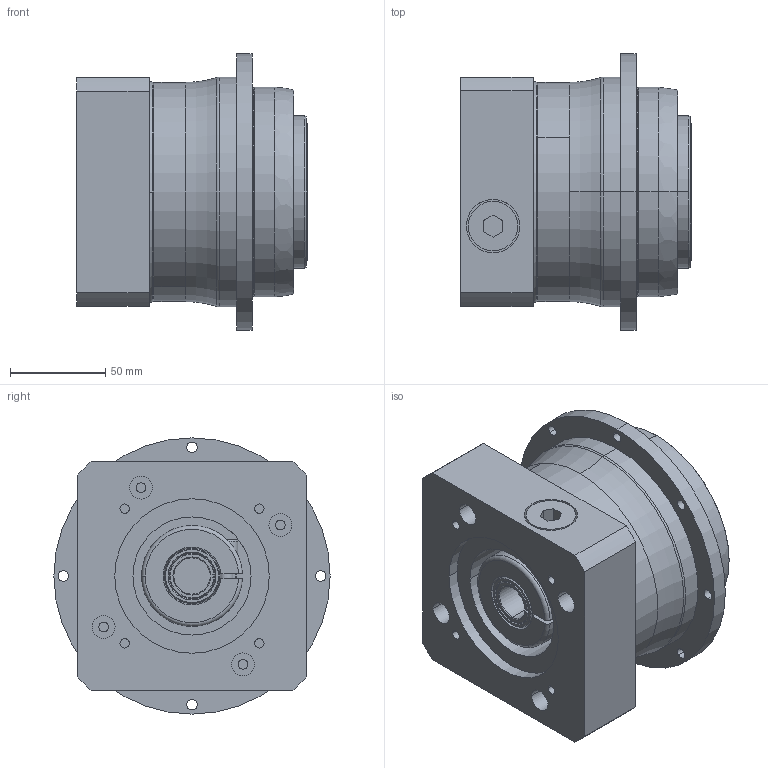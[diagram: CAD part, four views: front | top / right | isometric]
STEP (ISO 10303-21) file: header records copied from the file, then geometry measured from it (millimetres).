
FILE_DESCRIPTION(('STEP AP214'),'1');
FILE_NAME('20161107_084126269.stp','2016-11-07T07:41:27',(''),(''),'XStep 1.0','it-motive AG (itm_Acis_A0018_00R.dll)',' ');
FILE_SCHEMA(('automotive_design'));
Length unit declared in the file: millimetre
Products named in the file (7): Abtrieb_TP_m080; Antrieb_MF1_m080_G; 1; Abtriebsflansch_TP_m080_0; ADP; vs_3_point; DSH
Bounding box: 121 x 145 x 145 mm (x, y, z)
Volume: 1273526.2 mm3; surface area: 189143.7 mm2
Topology: 7 solids, 7 shells, 304 faces, 719 edges, 441 vertices
Faces by surface type: cylinder 133, plane 71, torus 50, cone 50
Entity records: 12180 total; most frequent: CARTESIAN_POINT 2345, DIRECTION 1691, ORIENTED_EDGE 1386, AXIS2_PLACEMENT_3D 719, EDGE_CURVE 693, VERTEX_POINT 441, CIRCLE 408, EDGE_LOOP 376
